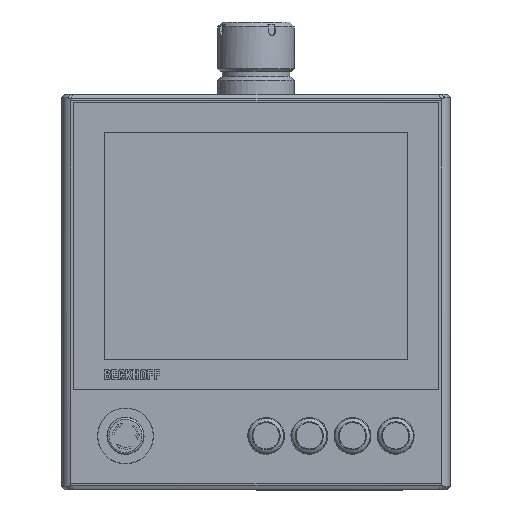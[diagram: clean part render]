
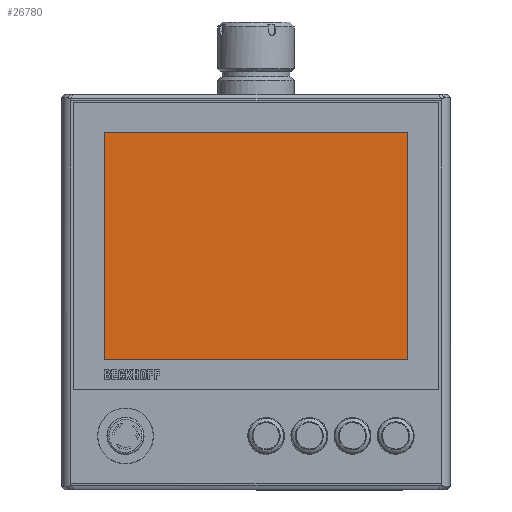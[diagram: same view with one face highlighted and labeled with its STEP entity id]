
A CAD part, top view. The second image highlights one B-rep face of the part: STEP entity #26780.
In plain terms, the highlighted planar face has unit normal (0, 0, 1).
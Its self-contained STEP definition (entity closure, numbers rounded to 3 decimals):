
#878=LINE('',#41539,#3254);
#879=LINE('',#41541,#3255);
#880=LINE('',#41543,#3256);
#881=LINE('',#41544,#3257);
#3254=VECTOR('',#32101,184.5);
#3255=VECTOR('',#32102,246.);
#3256=VECTOR('',#32103,184.5);
#3257=VECTOR('',#32104,246.);
#5578=PLANE('',#28569);
#7240=FACE_OUTER_BOUND('',#8879,.T.);
#8879=EDGE_LOOP('',(#18970,#18971,#18972,#18973));
#11649=VERTEX_POINT('',#41537);
#11650=VERTEX_POINT('',#41538);
#11651=VERTEX_POINT('',#41540);
#11652=VERTEX_POINT('',#41542);
#14429=EDGE_CURVE('',#11649,#11650,#878,.T.);
#14430=EDGE_CURVE('',#11651,#11649,#879,.T.);
#14431=EDGE_CURVE('',#11652,#11651,#880,.T.);
#14432=EDGE_CURVE('',#11650,#11652,#881,.T.);
#18970=ORIENTED_EDGE('',*,*,#14429,.F.);
#18971=ORIENTED_EDGE('',*,*,#14430,.F.);
#18972=ORIENTED_EDGE('',*,*,#14431,.F.);
#18973=ORIENTED_EDGE('',*,*,#14432,.F.);
#26780=ADVANCED_FACE('',(#7240),#5578,.T.);
#28569=AXIS2_PLACEMENT_3D('',#41536,#32099,#32100);
#32099=DIRECTION('center_axis',(0.,0.,
1.));
#32100=DIRECTION('ref_axis',(1.,0.,0.));
#32101=DIRECTION('',(0.,1.,0.));
#32102=DIRECTION('',(-1.,0.,0.));
#32103=DIRECTION('',(0.,-1.,0.));
#32104=DIRECTION('',(1.,0.,0.));
#41536=CARTESIAN_POINT('Origin',(0.,0.,
-127.402));
#41537=CARTESIAN_POINT('',(-123.,-92.25,-127.402));
#41538=CARTESIAN_POINT('',(-123.,92.25,-127.402));
#41539=CARTESIAN_POINT('',(-123.,-46.125,-127.402));
#41540=CARTESIAN_POINT('',(123.,-92.25,-127.402));
#41541=CARTESIAN_POINT('',(61.5,-92.25,-127.402));
#41542=CARTESIAN_POINT('',(123.,92.25,-127.402));
#41543=CARTESIAN_POINT('',(123.,46.125,-127.402));
#41544=CARTESIAN_POINT('',(-61.5,92.25,-127.402));
